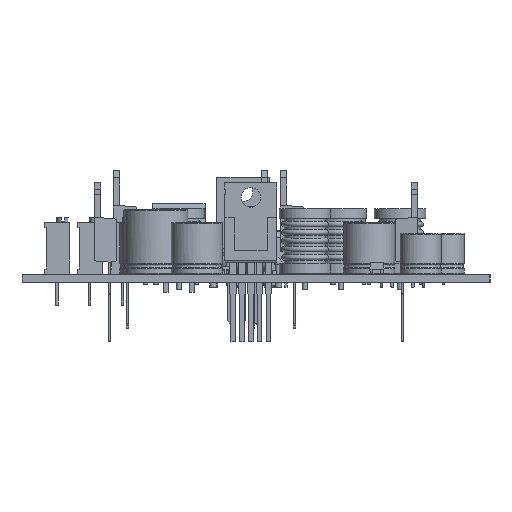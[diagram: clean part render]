
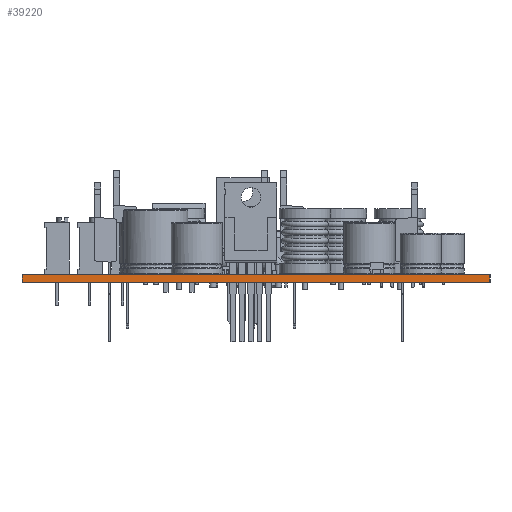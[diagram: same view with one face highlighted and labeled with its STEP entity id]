
A CAD part, left-side view. The second image highlights one B-rep face of the part: STEP entity #39220.
In plain terms, the highlighted planar face has unit normal (-1, 0, 0).
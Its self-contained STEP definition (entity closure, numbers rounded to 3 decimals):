
#39164 = VERTEX_POINT('',#39165);
#39165 = CARTESIAN_POINT('',(132.5,-184.,1.51));
#39171 = EDGE_CURVE('',#39172,#39164,#39174,.T.);
#39172 = VERTEX_POINT('',#39173);
#39173 = CARTESIAN_POINT('',(132.5,-184.,0.));
#39174 = LINE('',#39175,#39176);
#39175 = CARTESIAN_POINT('',(132.5,-184.,0.));
#39176 = VECTOR('',#39177,1.);
#39177 = DIRECTION('',(0.,0.,1.));
#39220 = ADVANCED_FACE('',(#39221),#39246,.T.);
#39221 = FACE_BOUND('',#39222,.T.);
#39222 = EDGE_LOOP('',(#39223,#39224,#39232,#39240));
#39223 = ORIENTED_EDGE('',*,*,#39171,.T.);
#39224 = ORIENTED_EDGE('',*,*,#39225,.T.);
#39225 = EDGE_CURVE('',#39164,#39226,#39228,.T.);
#39226 = VERTEX_POINT('',#39227);
#39227 = CARTESIAN_POINT('',(132.5,-93.,1.51));
#39228 = LINE('',#39229,#39230);
#39229 = CARTESIAN_POINT('',(132.5,-184.,1.51));
#39230 = VECTOR('',#39231,1.);
#39231 = DIRECTION('',(0.,1.,0.));
#39232 = ORIENTED_EDGE('',*,*,#39233,.F.);
#39233 = EDGE_CURVE('',#39234,#39226,#39236,.T.);
#39234 = VERTEX_POINT('',#39235);
#39235 = CARTESIAN_POINT('',(132.5,-93.,0.));
#39236 = LINE('',#39237,#39238);
#39237 = CARTESIAN_POINT('',(132.5,-93.,0.));
#39238 = VECTOR('',#39239,1.);
#39239 = DIRECTION('',(0.,0.,1.));
#39240 = ORIENTED_EDGE('',*,*,#39241,.F.);
#39241 = EDGE_CURVE('',#39172,#39234,#39242,.T.);
#39242 = LINE('',#39243,#39244);
#39243 = CARTESIAN_POINT('',(132.5,-184.,0.));
#39244 = VECTOR('',#39245,1.);
#39245 = DIRECTION('',(0.,1.,0.));
#39246 = PLANE('',#39247);
#39247 = AXIS2_PLACEMENT_3D('',#39248,#39249,#39250);
#39248 = CARTESIAN_POINT('',(132.5,-184.,0.));
#39249 = DIRECTION('',(-1.,0.,0.));
#39250 = DIRECTION('',(0.,1.,0.));
